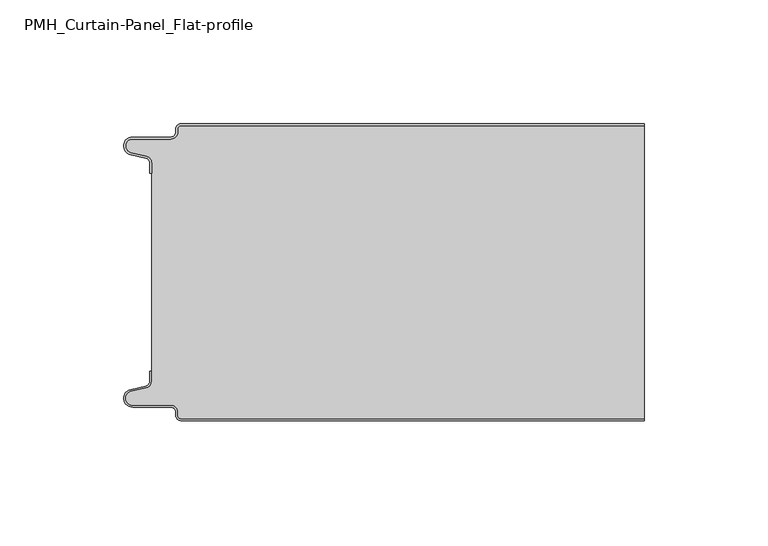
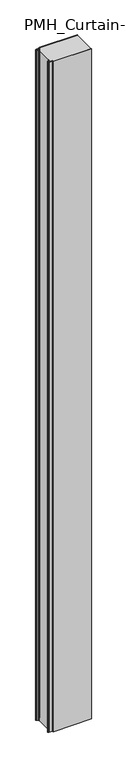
"""IFC4 building model written with IfcOpenShell, lengths in millimetres: plate geometry, PMH_Curtain-Panel_Flat-profile : ACH_PMH_Stone-wool-Panel_120M."""

from ifc_helpers import new_model, si_unit, point, frame_2d, origin, origin_with_axes, place, context, project, spatial, polyline, circle_curve, trimmed, segment, composite_curve, outline, extrude, source, transform, mapped, element, save


def pmh_curtain_panel_flat_profile_8a9b628f(model_context):
    return source(origin(), model_context, "Body", "SweptSolid", [
        extrude(outline(composite_curve([segment(trimmed(circle_curve(frame_2d((-87.4, -2.0)), 1.2), [point((-87.4, -0.8))], [point((-88.6, -2.0))], True, "CARTESIAN"), True, "CONTINUOUS"), segment(polyline([(-88.6, -2.0), (-88.6, -3.4)]), True, "CONTINUOUS"), segment(trimmed(circle_curve(frame_2d((-91.4, -3.4)), 2.8), [point((-88.6, -3.4))], [point((-91.4, -6.2))], False, "CARTESIAN"), True, "CONTINUOUS"), segment(polyline([(-91.4, -6.2), (-106.9, -6.2)]), True, "CONTINUOUS"), segment(trimmed(circle_curve(frame_2d((-106.9, -9.0)), 2.8), [point((-106.9, -6.2))], [point((-107.529863, -11.7282362))], True, "CARTESIAN"), True, "CONTINUOUS"), segment(polyline([(-107.529863, -11.7282362), (-101.370137, -13.150321)]), True, "CONTINUOUS"), segment(trimmed(circle_curve(frame_2d((-102.0, -15.878557)), 2.8), [point((-101.370137, -13.150321))], [point((-99.2, -15.878557))], False, "CARTESIAN"), True, "CONTINUOUS"), segment(polyline([(-99.2, -15.878557), (-99.2, -20.0), (-100.0, -20.0), (-100.0, -15.878557)]), True, "CONTINUOUS"), segment(trimmed(circle_curve(frame_2d((-102.0, -15.878557)), 2.0), [point((-100.0, -15.878557))], [point((-101.5500978, -13.9298169))], True, "CARTESIAN"), True, "CONTINUOUS"), segment(polyline([(-101.5500978, -13.9298169), (-107.7098239, -12.507732)]), True, "CONTINUOUS"), segment(trimmed(circle_curve(frame_2d((-106.9, -9.0)), 3.6), [point((-107.7098239, -12.507732))], [point((-106.9, -5.4))], False, "CARTESIAN"), True, "CONTINUOUS"), segment(polyline([(-106.9, -5.4), (-91.4, -5.4)]), True, "CONTINUOUS"), segment(trimmed(circle_curve(frame_2d((-91.4, -3.4)), 2.0), [point((-91.4, -5.4))], [point((-89.4, -3.4))], True, "CARTESIAN"), True, "CONTINUOUS"), segment(polyline([(-89.4, -3.4), (-89.4, -2.0)]), True, "CONTINUOUS"), segment(trimmed(circle_curve(frame_2d((-87.4, -2.0)), 2.0), [point((-89.4, -2.0))], [point((-87.4, 0.0))], False, "CARTESIAN"), True, "CONTINUOUS"), segment(polyline([(-87.4, 0.0), (100.0, 0.0), (100.0, -0.8), (-87.4, -0.8)]), True, "CONTINUOUS")], self_intersect=False)), origin_with_axes(), (0.0, 0.0, 1.0), 3500.0),
        extrude(outline(composite_curve([segment(polyline([(-99.2, -104.1214426), (-99.2, -15.8785573)]), True, "CONTINUOUS"), segment(trimmed(circle_curve(frame_2d((-102.0, -15.8785573)), 2.8), [point((-99.2, -15.8785573))], [point((-101.370137, -13.1503212))], True, "CARTESIAN"), True, "CONTINUOUS"), segment(polyline([(-101.370137, -13.1503212), (-107.5298631, -11.7282362)]), True, "CONTINUOUS"), segment(trimmed(circle_curve(frame_2d((-106.9, -9.0)), 2.8), [point((-107.5298631, -11.7282362))], [point((-106.9, -6.2))], False, "CARTESIAN"), True, "CONTINUOUS"), segment(polyline([(-106.9, -6.2), (-91.4000001, -6.2)]), True, "CONTINUOUS"), segment(trimmed(circle_curve(frame_2d((-91.4000001, -3.4)), 2.8), [point((-91.4000001, -6.2))], [point((-88.6000001, -3.4))], True, "CARTESIAN"), True, "CONTINUOUS"), segment(polyline([(-88.6000001, -3.4), (-88.6000001, -2.0)]), True, "CONTINUOUS"), segment(trimmed(circle_curve(frame_2d((-87.4000001, -2.0)), 1.2), [point((-88.6000001, -2.0))], [point((-87.4000001, -0.8))], False, "CARTESIAN"), True, "CONTINUOUS"), segment(polyline([(-87.4000001, -0.8), (100.0, -0.8), (100.0, -119.2), (-87.4000001, -119.2)]), True, "CONTINUOUS"), segment(trimmed(circle_curve(frame_2d((-87.4000001, -118.0)), 1.2), [point((-87.4000001, -119.2))], [point((-88.6000001, -118.0))], False, "CARTESIAN"), True, "CONTINUOUS"), segment(polyline([(-88.6000001, -118.0), (-88.6000001, -116.6)]), True, "CONTINUOUS"), segment(trimmed(circle_curve(frame_2d((-91.4000001, -116.6)), 2.8), [point((-88.6000001, -116.6))], [point((-91.4000001, -113.8))], True, "CARTESIAN"), True, "CONTINUOUS"), segment(polyline([(-91.4000001, -113.8), (-106.9, -113.8)]), True, "CONTINUOUS"), segment(trimmed(circle_curve(frame_2d((-106.9, -111.0)), 2.8), [point((-106.9, -113.8))], [point((-107.5298631, -108.2717638))], False, "CARTESIAN"), True, "CONTINUOUS"), segment(polyline([(-107.5298631, -108.2717638), (-101.370137, -106.8496788)]), True, "CONTINUOUS"), segment(trimmed(circle_curve(frame_2d((-102.0, -104.1214426)), 2.8), [point((-101.370137, -106.8496788))], [point((-99.2, -104.1214426))], True, "CARTESIAN"), True, "CONTINUOUS")], self_intersect=False)), origin_with_axes(), (0.0, 0.0, 1.0), 3500.0),
        extrude(outline(composite_curve([segment(trimmed(circle_curve(frame_2d((-87.4, -118.0)), 2.0), [point((-87.4, -120.0))], [point((-89.4, -118.0))], False, "CARTESIAN"), True, "CONTINUOUS"), segment(polyline([(-89.4, -118.0), (-89.4, -116.6)]), True, "CONTINUOUS"), segment(trimmed(circle_curve(frame_2d((-91.4, -116.6)), 2.0), [point((-89.4, -116.6))], [point((-91.4, -114.6))], True, "CARTESIAN"), True, "CONTINUOUS"), segment(polyline([(-91.4, -114.6), (-106.9, -114.6)]), True, "CONTINUOUS"), segment(trimmed(circle_curve(frame_2d((-106.9, -111.0)), 3.6), [point((-106.9, -114.6))], [point((-107.7098239, -107.4922678))], False, "CARTESIAN"), True, "CONTINUOUS"), segment(polyline([(-107.7098239, -107.4922678), (-101.5500979, -106.070183)]), True, "CONTINUOUS"), segment(trimmed(circle_curve(frame_2d((-102.0, -104.121443)), 2.0), [point((-101.5500979, -106.070183))], [point((-100.0, -104.121443))], True, "CARTESIAN"), True, "CONTINUOUS"), segment(polyline([(-100.0, -104.121443), (-100.0, -100.0), (-99.2, -100.0), (-99.2, -104.121443)]), True, "CONTINUOUS"), segment(trimmed(circle_curve(frame_2d((-102.0, -104.121443)), 2.8), [point((-99.2, -104.121443))], [point((-101.370137, -106.8496792))], False, "CARTESIAN"), True, "CONTINUOUS"), segment(polyline([(-101.370137, -106.8496792), (-107.529863, -108.271764)]), True, "CONTINUOUS"), segment(trimmed(circle_curve(frame_2d((-106.9, -111.0)), 2.8), [point((-107.529863, -108.271764))], [point((-106.9, -113.8))], True, "CARTESIAN"), True, "CONTINUOUS"), segment(polyline([(-106.9, -113.8), (-91.4, -113.8)]), True, "CONTINUOUS"), segment(trimmed(circle_curve(frame_2d((-91.4, -116.6)), 2.8), [point((-91.4, -113.8))], [point((-88.6, -116.6))], False, "CARTESIAN"), True, "CONTINUOUS"), segment(polyline([(-88.6, -116.6), (-88.6, -118.0)]), True, "CONTINUOUS"), segment(trimmed(circle_curve(frame_2d((-87.4, -118.0)), 1.2), [point((-88.6, -118.0))], [point((-87.4, -119.2))], True, "CARTESIAN"), True, "CONTINUOUS"), segment(polyline([(-87.4, -119.2), (100.0, -119.2), (100.0, -120.0), (-87.4, -120.0)]), True, "CONTINUOUS")], self_intersect=False)), origin_with_axes(), (0.0, 0.0, 1.0), 3500.0),
    ])


if __name__ == "__main__":
    model = new_model("IFC4")
    model_context = context("Model", 3, world=origin())
    ifc_project = project(units=[si_unit("LENGTHUNIT", "METRE", prefix="MILLI")], contexts=[model_context])
    site = spatial("IfcSite", under=ifc_project)
    building = spatial("IfcBuilding", under=site)
    placement = place(None, origin())
    pmh_curtain_panel_flat_profile_shape = pmh_curtain_panel_flat_profile_8a9b628f(model_context)
    element("IfcPlate", 1, ObjectType="PMH_Curtain-Panel_Flat-profile : ACH_PMH_Stone-wool-Panel_120M", at=placement, inside=building, context=model_context, shape_type="MappedRepresentation", body=[
        mapped(pmh_curtain_panel_flat_profile_shape, transform((0.0, 0.0, 0.0), x_axis=(1.0, 0.0, 0.0), y_axis=(0.0, 1.0, 0.0), z_axis=(0.0, 0.0, 1.0))),
    ])
    save(model, "model.ifc")
